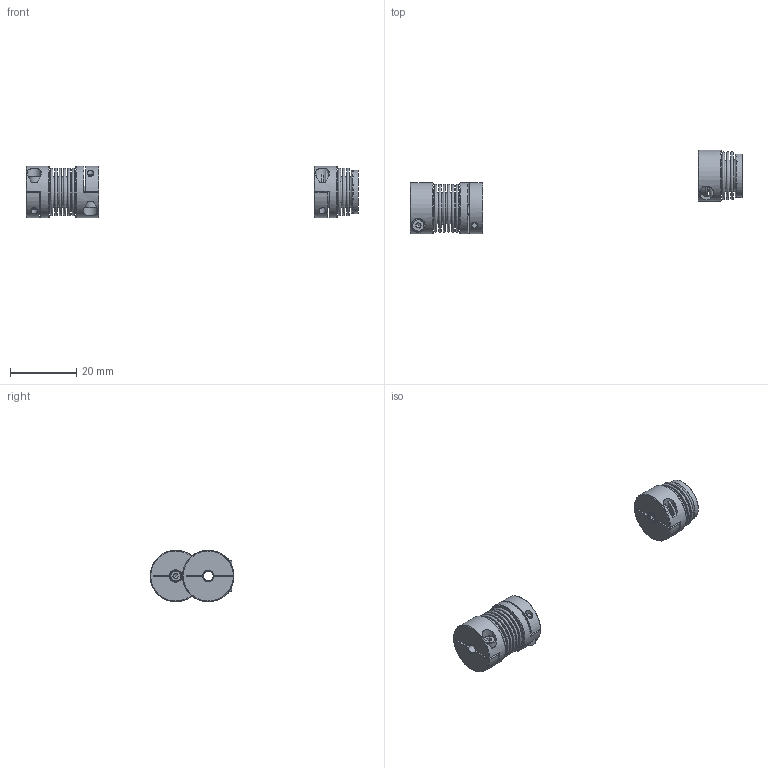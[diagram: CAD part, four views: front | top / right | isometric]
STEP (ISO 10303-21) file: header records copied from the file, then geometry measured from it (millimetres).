
FILE_DESCRIPTION( ( 'Unknown' ), '1' );
FILE_NAME( 'C:/Dokumente und Einstellungen/Sven/Desktop/cad - homepage/KB2/KB2-10-23.stp', 'Unknown', ( 'Unknown' ), ( 'Unknown' ), 'XStep 1.0', 'Unknown', ' ' );
FILE_SCHEMA( ( 'automotive_design' ) );
Length unit declared in the file: millimetre
Products named in the file (4): Assem1; Socket Head Cap Screw_DIN_DIN 912 M2 x 8 --- 8N; BK10_Standard; KN10_Standard
Bounding box: 100.07 x 25.28 x 15.5 mm (x, y, z)
Volume: 3889.1 mm3; surface area: 9865.6 mm2
Topology: 8 solids, 8 shells, 260 faces, 524 edges, 339 vertices
Faces by surface type: plane 138, torus 66, cylinder 38, cone 18
Full cylindrical faces by diameter (mm): 2 x6, 2.2 x3, 3 x3, 3.8 x3, 12.9 x4, 13.1 x4, 15.5 x3
Entity records: 2837 total; most frequent: CARTESIAN_POINT 511, DIRECTION 474, ORIENTED_EDGE 312, AXIS2_PLACEMENT_3D 214, EDGE_LOOP 190, EDGE_CURVE 156, FACE_OUTER_BOUND 150, VERTEX_POINT 129
